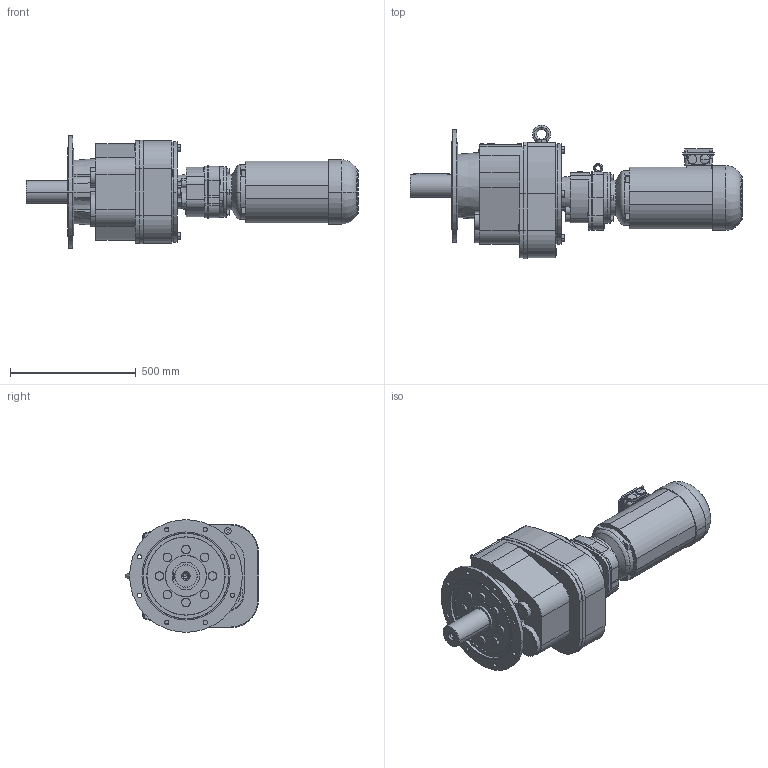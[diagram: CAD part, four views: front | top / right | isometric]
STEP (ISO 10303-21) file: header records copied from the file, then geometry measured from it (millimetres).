
FILE_DESCRIPTION(('STEP AP214'),'1');
FILE_NAME('STEP-File.stp','2018-01-01T00:00:00',(' '),('KEB'),' ','KEB-DRIVE',' ');
FILE_SCHEMA(('AUTOMOTIVE_DESIGN { 1 0 10303 214 1 1 1 1 }'));
Length unit declared in the file: millimetre
Products named in the file (12): g8b; w8_we_90x170; c8_450; fp4-c8; g4b; ca4; dm132_kkn; kk10; PLUG_M32; SCREW-PLUG_M32; ndm132; G83G42C DM132MB4§CAD13
Assembly tree (11 placements, depth 2):
  G83G42C DM132MB4§CAD13
    g8b
    w8_we_90x170
    c8_450
    fp4-c8
    g4b
    ca4
    dm132_kkn
    kk10
    PLUG_M32
    SCREW-PLUG_M32
    ndm132
Bounding box: 1319 x 530 x 447.93 mm (x, y, z)
Volume: 88375281 mm3; surface area: 2606941.5 mm2
Topology: 11 solids, 11 shells, 545 faces, 1357 edges, 901 vertices
Faces by surface type: plane 285, cylinder 191, cone 36, torus 25, bspline 8
Entity records: 22872 total; most frequent: CARTESIAN_POINT 10069, ORIENTED_EDGE 2710, DIRECTION 2382, EDGE_CURVE 1355, VERTEX_POINT 901, AXIS2_PLACEMENT_3D 830, VECTOR 722, LINE 722
